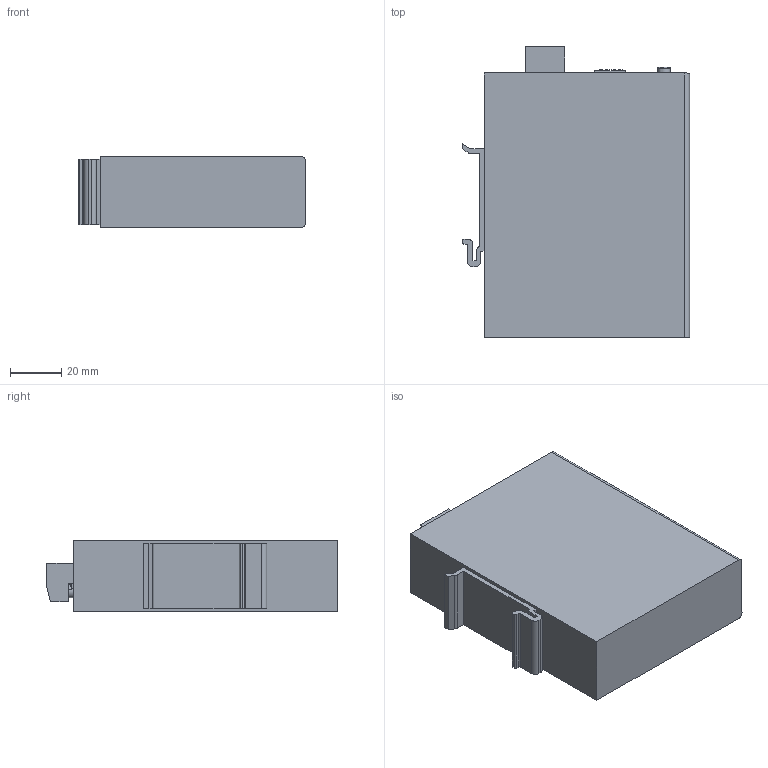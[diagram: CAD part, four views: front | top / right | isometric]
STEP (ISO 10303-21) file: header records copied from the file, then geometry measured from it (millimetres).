
FILE_DESCRIPTION((''),'2;1');
FILE_NAME('FAS-MS105T','2022-06-06T',('PC'),(''),'PRO/ENGINEER BY PARAMETRIC TECHNOLOGY CORPORATION, 2009220','PRO/ENGINEER BY PARAMETRIC TECHNOLOGY CORPORATION, 2009220','');
FILE_SCHEMA(('CONFIG_CONTROL_DESIGN'));
Products named in the file (1): FAS-MS105T
Bounding box: 88.5 x 113.3 x 28 mm (x, y, z)
Volume: 230377.2 mm3; surface area: 33228.1 mm2
Topology: 1 solids, 2 shells, 1623 faces, 4215 edges, 2753 vertices
Faces by surface type: plane 1143, extrusion 298, cylinder 135, torus 20, cone 16, bspline 11
Entity records: 61263 total; most frequent: CARTESIAN_POINT 22530, ORIENTED_EDGE 8430, DIRECTION 6788, EDGE_CURVE 4215, VECTOR 3572, LINE 3274, VERTEX_POINT 2753, EDGE_LOOP 1780
